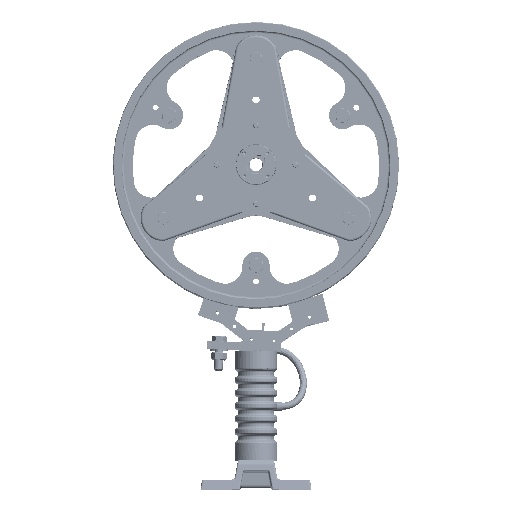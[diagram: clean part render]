
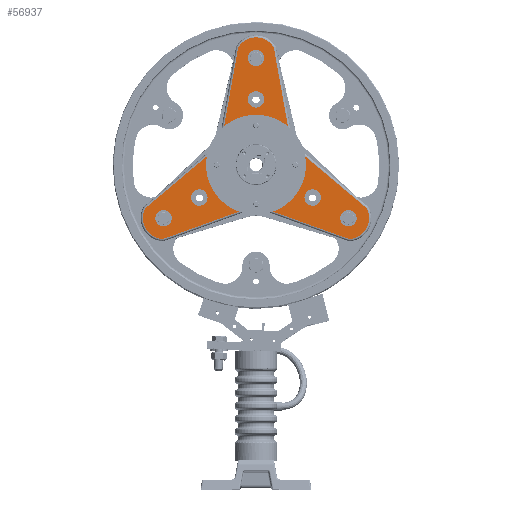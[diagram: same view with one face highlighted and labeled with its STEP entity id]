
A CAD part, top view. The second image highlights one B-rep face of the part: STEP entity #56937.
In plain terms, the highlighted planar face has unit normal (0, 0, 1).
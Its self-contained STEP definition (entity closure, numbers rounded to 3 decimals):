
#2145=PLANE('',#61357);
#4285=LINE('',#84652,#7307);
#4286=LINE('',#84656,#7308);
#4287=LINE('',#84660,#7309);
#4288=LINE('',#84664,#7310);
#4289=LINE('',#84668,#7311);
#4290=LINE('',#84672,#7312);
#7307=VECTOR('',#69113,125.326);
#7308=VECTOR('',#69116,125.326);
#7309=VECTOR('',#69119,125.326);
#7310=VECTOR('',#69122,125.326);
#7311=VECTOR('',#69125,125.326);
#7312=VECTOR('',#69128,125.326);
#10900=FACE_BOUND('',#17007,.T.);
#10901=FACE_BOUND('',#17008,.T.);
#10902=FACE_BOUND('',#17009,.T.);
#10903=FACE_BOUND('',#17010,.T.);
#10904=FACE_BOUND('',#17011,.T.);
#10905=FACE_BOUND('',#17012,.T.);
#10906=FACE_BOUND('',#17013,.T.);
#12754=FACE_OUTER_BOUND('',#17006,.T.);
#17006=EDGE_LOOP('',(#38347,#38348,#38349,#38350,#38351,#38352,#38353,#38354,
#38355,#38356,#38357,#38358));
#17007=EDGE_LOOP('',(#38359));
#17008=EDGE_LOOP('',(#38360));
#17009=EDGE_LOOP('',(#38361));
#17010=EDGE_LOOP('',(#38362));
#17011=EDGE_LOOP('',(#38363));
#17012=EDGE_LOOP('',(#38364));
#17013=EDGE_LOOP('',(#38365));
#21909=CIRCLE('',#61315,11.5);
#21912=CIRCLE('',#61321,11.5);
#21916=CIRCLE('',#61328,11.5);
#21920=CIRCLE('',#61335,11.5);
#21924=CIRCLE('',#61342,11.5);
#21928=CIRCLE('',#61349,11.5);
#21931=CIRCLE('',#61354,52.897);
#21933=CIRCLE('',#61358,35.);
#21934=CIRCLE('',#61359,29.);
#21935=CIRCLE('',#61360,35.);
#21936=CIRCLE('',#61361,29.);
#21937=CIRCLE('',#61362,35.);
#21938=CIRCLE('',#61363,29.);
#24834=VERTEX_POINT('',#84583);
#24837=VERTEX_POINT('',#84592);
#24841=VERTEX_POINT('',#84603);
#24845=VERTEX_POINT('',#84614);
#24849=VERTEX_POINT('',#84625);
#24853=VERTEX_POINT('',#84636);
#24856=VERTEX_POINT('',#84644);
#24858=VERTEX_POINT('',#84650);
#24859=VERTEX_POINT('',#84651);
#24860=VERTEX_POINT('',#84653);
#24861=VERTEX_POINT('',#84655);
#24862=VERTEX_POINT('',#84657);
#24863=VERTEX_POINT('',#84659);
#24864=VERTEX_POINT('',#84661);
#24865=VERTEX_POINT('',#84663);
#24866=VERTEX_POINT('',#84665);
#24867=VERTEX_POINT('',#84667);
#24868=VERTEX_POINT('',#84669);
#24869=VERTEX_POINT('',#84671);
#30115=EDGE_CURVE('',#24834,#24834,#21909,.T.);
#30118=EDGE_CURVE('',#24837,#24837,#21912,.T.);
#30122=EDGE_CURVE('',#24841,#24841,#21916,.T.);
#30126=EDGE_CURVE('',#24845,#24845,#21920,.T.);
#30130=EDGE_CURVE('',#24849,#24849,#21924,.T.);
#30134=EDGE_CURVE('',#24853,#24853,#21928,.T.);
#30137=EDGE_CURVE('',#24856,#24856,#21931,.T.);
#30139=EDGE_CURVE('',#24858,#24859,#4285,.T.);
#30140=EDGE_CURVE('',#24860,#24858,#21933,.T.);
#30141=EDGE_CURVE('',#24861,#24860,#4286,.T.);
#30142=EDGE_CURVE('',#24862,#24861,#21934,.T.);
#30143=EDGE_CURVE('',#24863,#24862,#4287,.T.);
#30144=EDGE_CURVE('',#24864,#24863,#21935,.T.);
#30145=EDGE_CURVE('',#24865,#24864,#4288,.T.);
#30146=EDGE_CURVE('',#24866,#24865,#21936,.T.);
#30147=EDGE_CURVE('',#24867,#24866,#4289,.T.);
#30148=EDGE_CURVE('',#24868,#24867,#21937,.T.);
#30149=EDGE_CURVE('',#24869,#24868,#4290,.T.);
#30150=EDGE_CURVE('',#24859,#24869,#21938,.T.);
#38347=ORIENTED_EDGE('',*,*,#30139,.F.);
#38348=ORIENTED_EDGE('',*,*,#30140,.F.);
#38349=ORIENTED_EDGE('',*,*,#30141,.F.);
#38350=ORIENTED_EDGE('',*,*,#30142,.F.);
#38351=ORIENTED_EDGE('',*,*,#30143,.F.);
#38352=ORIENTED_EDGE('',*,*,#30144,.F.);
#38353=ORIENTED_EDGE('',*,*,#30145,.F.);
#38354=ORIENTED_EDGE('',*,*,#30146,.F.);
#38355=ORIENTED_EDGE('',*,*,#30147,.F.);
#38356=ORIENTED_EDGE('',*,*,#30148,.F.);
#38357=ORIENTED_EDGE('',*,*,#30149,.F.);
#38358=ORIENTED_EDGE('',*,*,#30150,.F.);
#38359=ORIENTED_EDGE('',*,*,#30115,.T.);
#38360=ORIENTED_EDGE('',*,*,#30118,.T.);
#38361=ORIENTED_EDGE('',*,*,#30122,.T.);
#38362=ORIENTED_EDGE('',*,*,#30126,.T.);
#38363=ORIENTED_EDGE('',*,*,#30130,.T.);
#38364=ORIENTED_EDGE('',*,*,#30134,.T.);
#38365=ORIENTED_EDGE('',*,*,#30137,.F.);
#56937=ADVANCED_FACE('',(#12754,#10900,#10901,#10902,#10903,#10904,#10905,
#10906),#2145,.T.);
#61315=AXIS2_PLACEMENT_3D('',#84584,#69027,#69028);
#61321=AXIS2_PLACEMENT_3D('',#84593,#69039,#69040);
#61328=AXIS2_PLACEMENT_3D('',#84604,#69053,#69054);
#61335=AXIS2_PLACEMENT_3D('',#84615,#69067,#69068);
#61342=AXIS2_PLACEMENT_3D('',#84626,#69081,#69082);
#61349=AXIS2_PLACEMENT_3D('',#84637,#69095,#69096);
#61354=AXIS2_PLACEMENT_3D('',#84645,#69105,#69106);
#61357=AXIS2_PLACEMENT_3D('',#84649,#69111,#69112);
#61358=AXIS2_PLACEMENT_3D('',#84654,#69114,#69115);
#61359=AXIS2_PLACEMENT_3D('',#84658,#69117,#69118);
#61360=AXIS2_PLACEMENT_3D('',#84662,#69120,#69121);
#61361=AXIS2_PLACEMENT_3D('',#84666,#69123,#69124);
#61362=AXIS2_PLACEMENT_3D('',#84670,#69126,#69127);
#61363=AXIS2_PLACEMENT_3D('',#84673,#69129,#69130);
#69027=DIRECTION('center_axis',(0.,0.,
-1.));
#69028=DIRECTION('ref_axis',(-0.5,0.866,0.));
#69039=DIRECTION('center_axis',(0.,0.,
-1.));
#69040=DIRECTION('ref_axis',(-0.5,0.866,0.));
#69053=DIRECTION('center_axis',(0.,0.,
-1.));
#69054=DIRECTION('ref_axis',(-0.5,-0.866,0.));
#69067=DIRECTION('center_axis',(0.,0.,
-1.));
#69068=DIRECTION('ref_axis',(-0.5,-0.866,0.));
#69081=DIRECTION('center_axis',(0.,0.,
-1.));
#69082=DIRECTION('ref_axis',(1.,0.,0.));
#69095=DIRECTION('center_axis',(0.,0.,
-1.));
#69096=DIRECTION('ref_axis',(1.,0.,0.));
#69105=DIRECTION('center_axis',(0.,0.,
1.));
#69106=DIRECTION('ref_axis',(-1.,0.,0.));
#69111=DIRECTION('center_axis',(0.,0.,
1.));
#69112=DIRECTION('ref_axis',(1.,0.,0.));
#69113=DIRECTION('',(0.764,-0.645,0.));
#69114=DIRECTION('center_axis',(0.,0.,
1.));
#69115=DIRECTION('ref_axis',(-0.866,-0.5,0.));
#69116=DIRECTION('',(0.176,-0.984,0.));
#69117=DIRECTION('center_axis',(0.,0.,
-1.));
#69118=DIRECTION('ref_axis',(0.,1.,0.));
#69119=DIRECTION('',(0.176,0.984,0.));
#69120=DIRECTION('center_axis',(0.,0.,
1.));
#69121=DIRECTION('ref_axis',(0.866,-0.5,0.));
#69122=DIRECTION('',(0.764,0.645,0.));
#69123=DIRECTION('center_axis',(0.,0.,
-1.));
#69124=DIRECTION('ref_axis',(-0.866,-0.5,0.));
#69125=DIRECTION('',(-0.941,-0.339,0.));
#69126=DIRECTION('center_axis',(0.,0.,
1.));
#69127=DIRECTION('ref_axis',(0.,1.,0.));
#69128=DIRECTION('',(-0.941,0.339,0.));
#69129=DIRECTION('center_axis',(0.,0.,
-1.));
#69130=DIRECTION('ref_axis',(0.866,-0.5,0.));
#84583=CARTESIAN_POINT('',(-145.74,363.834,99.229));
#84584=CARTESIAN_POINT('Origin',(-139.99,353.875,99.229));
#84592=CARTESIAN_POINT('',(-95.727,392.709,99.229));
#84593=CARTESIAN_POINT('Origin',(-89.977,382.75,99.229));
#84603=CARTESIAN_POINT('',(112.768,343.916,99.229));
#84604=CARTESIAN_POINT('Origin',(118.518,353.875,99.229));
#84614=CARTESIAN_POINT('',(62.755,372.791,99.229));
#84615=CARTESIAN_POINT('Origin',(68.505,382.75,99.229));
#84625=CARTESIAN_POINT('',(0.764,577.75,99.229));
#84626=CARTESIAN_POINT('Origin',(-10.736,577.75,99.229));
#84636=CARTESIAN_POINT('',(0.764,520.,99.229));
#84637=CARTESIAN_POINT('Origin',(-10.736,520.,99.229));
#84644=CARTESIAN_POINT('',(42.161,428.5,99.229));
#84645=CARTESIAN_POINT('Origin',(-10.736,428.5,99.229));
#84649=CARTESIAN_POINT('Origin',(-10.736,428.5,99.229));
#84650=CARTESIAN_POINT('',(48.112,448.762,99.229));
#84651=CARTESIAN_POINT('',(143.885,367.929,99.229));
#84652=CARTESIAN_POINT('',(31.511,462.773,99.229));
#84653=CARTESIAN_POINT('',(36.235,469.333,99.229));
#84654=CARTESIAN_POINT('Origin',(70.686,475.509,99.229));
#84655=CARTESIAN_POINT('',(14.119,592.691,99.229));
#84656=CARTESIAN_POINT('',(27.945,515.576,99.229));
#84657=CARTESIAN_POINT('',(-35.591,592.691,99.229));
#84658=CARTESIAN_POINT('Origin',(-10.736,577.75,99.229));
#84659=CARTESIAN_POINT('',(-57.708,469.333,99.229));
#84660=CARTESIAN_POINT('',(-61.541,447.951,99.229));
#84661=CARTESIAN_POINT('',(-69.584,448.762,99.229));
#84662=CARTESIAN_POINT('Origin',(-92.158,475.509,99.229));
#84663=CARTESIAN_POINT('',(-165.357,367.929,99.229));
#84664=CARTESIAN_POINT('',(-105.486,418.461,99.229));
#84665=CARTESIAN_POINT('',(-140.502,324.88,99.229));
#84666=CARTESIAN_POINT('Origin',(-139.99,353.875,99.229));
#84667=CARTESIAN_POINT('',(-22.612,367.405,99.229));
#84668=CARTESIAN_POINT('',(-2.178,374.776,99.229));
#84669=CARTESIAN_POINT('',(1.14,367.405,99.229));
#84670=CARTESIAN_POINT('Origin',(-10.736,334.482,99.229));
#84671=CARTESIAN_POINT('',(119.03,324.88,99.229));
#84672=CARTESIAN_POINT('',(45.333,351.464,99.229));
#84673=CARTESIAN_POINT('Origin',(118.518,353.875,99.229));
